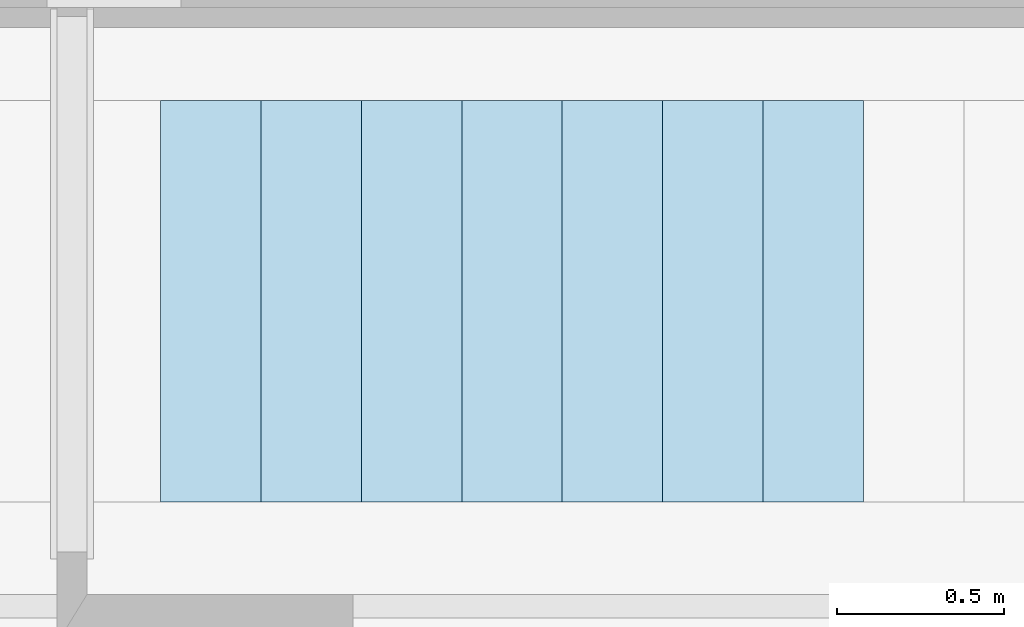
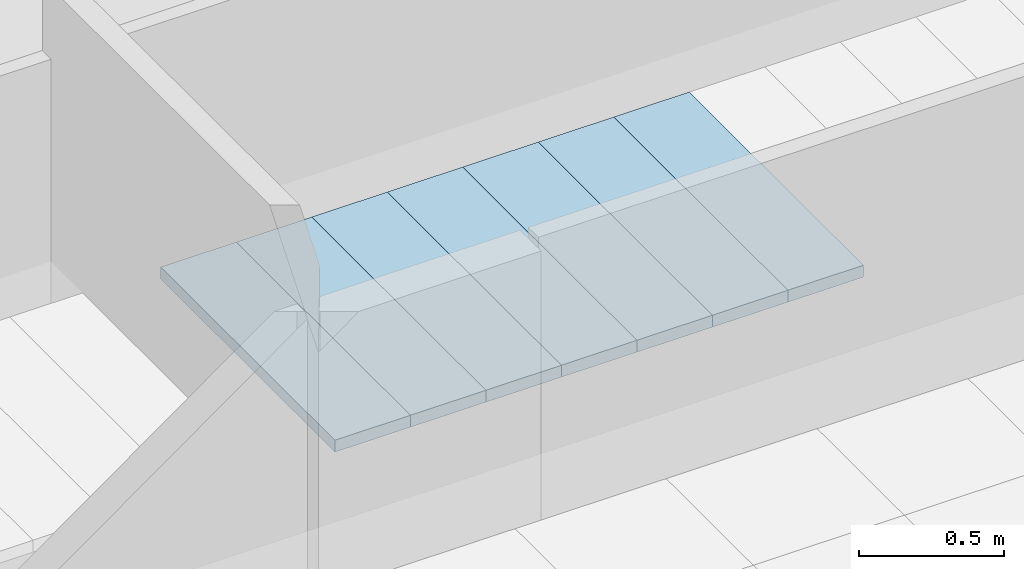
# One storey, part 7 of 60: 7 slabs.
"""IFC2X3 building model written with IfcOpenShell, lengths in millimetres."""

from ifc_helpers import new_model, entity, si_unit, converted_unit, derived_unit, money_unit, direction, frame, origin_with_axes, place, context, subcontext, project, spatial, polyline, outline, extrude, material, layer, layer_set, layer_usage, type_object, element, save


model = new_model("IFC2X3")

# Units and contexts
model_context = context("Model", 3, precision=0.01, world=origin_with_axes(), true_north=direction((0.0, 1.0)))
body_context = subcontext(model_context, "Body", "Model", "MODEL_VIEW")
ifc_project = project(units=[si_unit("LENGTHUNIT", "METRE", prefix="MILLI"), si_unit("AREAUNIT", "SQUARE_METRE"), si_unit("VOLUMEUNIT", "CUBIC_METRE"), converted_unit("PLANEANGLEUNIT", "DEGREE", entity("IfcPlaneAngleMeasure", 0.0174532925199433), si_unit("PLANEANGLEUNIT", "RADIAN"), dimensions=[0, 0, 0, 0, 0, 0, 0]), money_unit("USD"), converted_unit("TIMEUNIT", "Year", entity("IfcTimeMeasure", 31557600.0), si_unit("TIMEUNIT", "SECOND"), dimensions=[0, 0, 1, 0, 0, 0, 0]), si_unit("MASSUNIT", "GRAM", prefix="KILO"), si_unit("THERMODYNAMICTEMPERATUREUNIT", "DEGREE_CELSIUS"), si_unit("LUMINOUSINTENSITYUNIT", "LUMEN"), si_unit("ENERGYUNIT", "JOULE", prefix="MEGA"), derived_unit("THERMALCONDUCTANCEUNIT", [(si_unit("POWERUNIT", "WATT"), 1), (si_unit("LENGTHUNIT", "METRE"), -1), (si_unit("THERMODYNAMICTEMPERATUREUNIT", "KELVIN"), -1)]), derived_unit("SPECIFICHEATCAPACITYUNIT", [(si_unit("ENERGYUNIT", "JOULE"), 1), (si_unit("MASSUNIT", "GRAM", prefix="KILO"), -1), (si_unit("THERMODYNAMICTEMPERATUREUNIT", "KELVIN"), -1)]), derived_unit("MASSDENSITYUNIT", [(si_unit("MASSUNIT", "GRAM", prefix="KILO"), 1), (si_unit("VOLUMEUNIT", "CUBIC_METRE"), -1)])], contexts=[model_context])

# Site, building, storey
site_placement = place(None, origin_with_axes())
site = spatial("IfcSite", under=ifc_project, at=site_placement, Name="Sitio", CompositionType="ELEMENT")
building_placement = place(site_placement, origin_with_axes())
building = spatial("IfcBuilding", under=site, at=building_placement, Name="Construcción", CompositionType="ELEMENT")
storey_placement = place(building_placement, frame((0.0, 0.0, 3650.0), z_axis=(0.0, 0.0, 1.0), x_axis=(1.0, 0.0, 0.0)))
storey = spatial("IfcBuildingStorey", under=building, at=storey_placement, Name="PLANTA 2ª", CompositionType="ELEMENT", Elevation=3650.0)

# Slabs
ifc_material = material(Name="ARQ_ME126_CelRas_Placa_Metallica")
ifc_layer = layer(ifc_material, 50.0, ventilated="UNKNOWN")
ifc_layer_set = layer_set([ifc_layer], Name="ARQ_ME126_CelRas_Placa_Metallica 50")
ifc_layer_usage_1 = layer_usage(ifc_layer_set, "AXIS3", "NEGATIVE", 50.0)
slab_type = type_object("IfcSlabType", Name="ARQ_ME126_CelRas_Placa_Metallica 50", PredefinedType="NOTDEFINED")
slab_1_placement = place(storey_placement, frame((-18570.23708222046, 3586.50452866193, 2500.0), z_axis=(0.0, 0.0, 1.0), x_axis=(1.0, 0.0, 0.0)))
element("IfcSlab", 1, at=slab_1_placement, inside=storey, type_object=slab_type, material=ifc_layer_usage_1, Name="SLA - 026", PredefinedType="NOTDEFINED", context=body_context, shape_type="SweptSolid", body=[
    extrude(outline(polyline([(0.0, 0.0), (0.0, -1199.999999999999), (300.0000000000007, -1199.999999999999), (300.0000000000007, 0.0), (0.0, 0.0)])), frame((0.0, 0.0, -50.0), z_axis=(0.0, 0.0, 1.0), x_axis=(1.0, 0.0, 0.0)), (0.0, 0.0, 1.0), 50.0),
])
ifc_layer_usage_2 = layer_usage(ifc_layer_set, "AXIS3", "NEGATIVE", 50.0)
slab_2_placement = place(storey_placement, frame((-18270.23708222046, 3586.50452866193, 2500.0), z_axis=(0.0, 0.0, 1.0), x_axis=(1.0, 0.0, 0.0)))
element("IfcSlab", 2, at=slab_2_placement, inside=storey, type_object=slab_type, material=ifc_layer_usage_2, Name="SLA - 026", PredefinedType="NOTDEFINED", context=body_context, shape_type="SweptSolid", body=[
    extrude(outline(polyline([(0.0, 0.0), (0.0, -1199.999999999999), (300.0000000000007, -1199.999999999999), (300.0000000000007, 0.0), (0.0, 0.0)])), frame((0.0, 0.0, -50.0), z_axis=(0.0, 0.0, 1.0), x_axis=(1.0, 0.0, 0.0)), (0.0, 0.0, 1.0), 50.0),
])
ifc_layer_usage_3 = layer_usage(ifc_layer_set, "AXIS3", "NEGATIVE", 50.0)
slab_3_placement = place(storey_placement, frame((-17970.23708222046, 3586.50452866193, 2500.0), z_axis=(0.0, 0.0, 1.0), x_axis=(1.0, 0.0, 0.0)))
element("IfcSlab", 3, at=slab_3_placement, inside=storey, type_object=slab_type, material=ifc_layer_usage_3, Name="SLA - 026", PredefinedType="NOTDEFINED", context=body_context, shape_type="SweptSolid", body=[
    extrude(outline(polyline([(0.0, 0.0), (0.0, -1199.999999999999), (300.0000000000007, -1199.999999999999), (300.0000000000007, 0.0), (0.0, 0.0)])), frame((0.0, 0.0, -50.0), z_axis=(0.0, 0.0, 1.0), x_axis=(1.0, 0.0, 0.0)), (0.0, 0.0, 1.0), 50.0),
])
ifc_layer_usage_4 = layer_usage(ifc_layer_set, "AXIS3", "NEGATIVE", 50.0)
slab_4_placement = place(storey_placement, frame((-17670.23708222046, 3586.50452866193, 2500.0), z_axis=(0.0, 0.0, 1.0), x_axis=(1.0, 0.0, 0.0)))
element("IfcSlab", 4, at=slab_4_placement, inside=storey, type_object=slab_type, material=ifc_layer_usage_4, Name="SLA - 026", PredefinedType="NOTDEFINED", context=body_context, shape_type="SweptSolid", body=[
    extrude(outline(polyline([(0.0, 0.0), (0.0, -1199.999999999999), (300.0000000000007, -1199.999999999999), (300.0000000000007, 0.0), (0.0, 0.0)])), frame((0.0, 0.0, -50.0), z_axis=(0.0, 0.0, 1.0), x_axis=(1.0, 0.0, 0.0)), (0.0, 0.0, 1.0), 50.0),
])
ifc_layer_usage_5 = layer_usage(ifc_layer_set, "AXIS3", "NEGATIVE", 50.0)
slab_5_placement = place(storey_placement, frame((-17070.23708222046, 3586.50452866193, 2500.0), z_axis=(0.0, 0.0, 1.0), x_axis=(1.0, 0.0, 0.0)))
element("IfcSlab", 5, at=slab_5_placement, inside=storey, type_object=slab_type, material=ifc_layer_usage_5, Name="SLA - 026", PredefinedType="NOTDEFINED", context=body_context, shape_type="SweptSolid", body=[
    extrude(outline(polyline([(0.0, 0.0), (0.0, -1199.999999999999), (300.0000000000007, -1199.999999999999), (300.0000000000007, 0.0), (0.0, 0.0)])), frame((0.0, 0.0, -50.0), z_axis=(0.0, 0.0, 1.0), x_axis=(1.0, 0.0, 0.0)), (0.0, 0.0, 1.0), 50.0),
])
ifc_layer_usage_6 = layer_usage(ifc_layer_set, "AXIS3", "NEGATIVE", 50.0)
slab_6_placement = place(storey_placement, frame((-17370.23708222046, 3586.50452866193, 2500.0), z_axis=(0.0, 0.0, 1.0), x_axis=(1.0, 0.0, 0.0)))
element("IfcSlab", 6, at=slab_6_placement, inside=storey, type_object=slab_type, material=ifc_layer_usage_6, Name="SLA - 026", PredefinedType="NOTDEFINED", context=body_context, shape_type="SweptSolid", body=[
    extrude(outline(polyline([(0.0, 0.0), (0.0, -1199.999999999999), (300.0000000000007, -1199.999999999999), (300.0000000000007, 0.0), (0.0, 0.0)])), frame((0.0, 0.0, -50.0), z_axis=(0.0, 0.0, 1.0), x_axis=(1.0, 0.0, 0.0)), (0.0, 0.0, 1.0), 50.0),
])
ifc_layer_usage_7 = layer_usage(ifc_layer_set, "AXIS3", "NEGATIVE", 50.0)
slab_7_placement = place(storey_placement, frame((-16770.23708222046, 3586.50452866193, 2500.0), z_axis=(0.0, 0.0, 1.0), x_axis=(1.0, 0.0, 0.0)))
element("IfcSlab", 7, at=slab_7_placement, inside=storey, type_object=slab_type, material=ifc_layer_usage_7, Name="SLA - 026", PredefinedType="NOTDEFINED", context=body_context, shape_type="SweptSolid", body=[
    extrude(outline(polyline([(0.0, 0.0), (0.0, -1199.999999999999), (300.0000000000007, -1199.999999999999), (300.0000000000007, 0.0), (0.0, 0.0)])), frame((0.0, 0.0, -50.0), z_axis=(0.0, 0.0, 1.0), x_axis=(1.0, 0.0, 0.0)), (0.0, 0.0, 1.0), 50.0),
])

save(model, "model.ifc")
